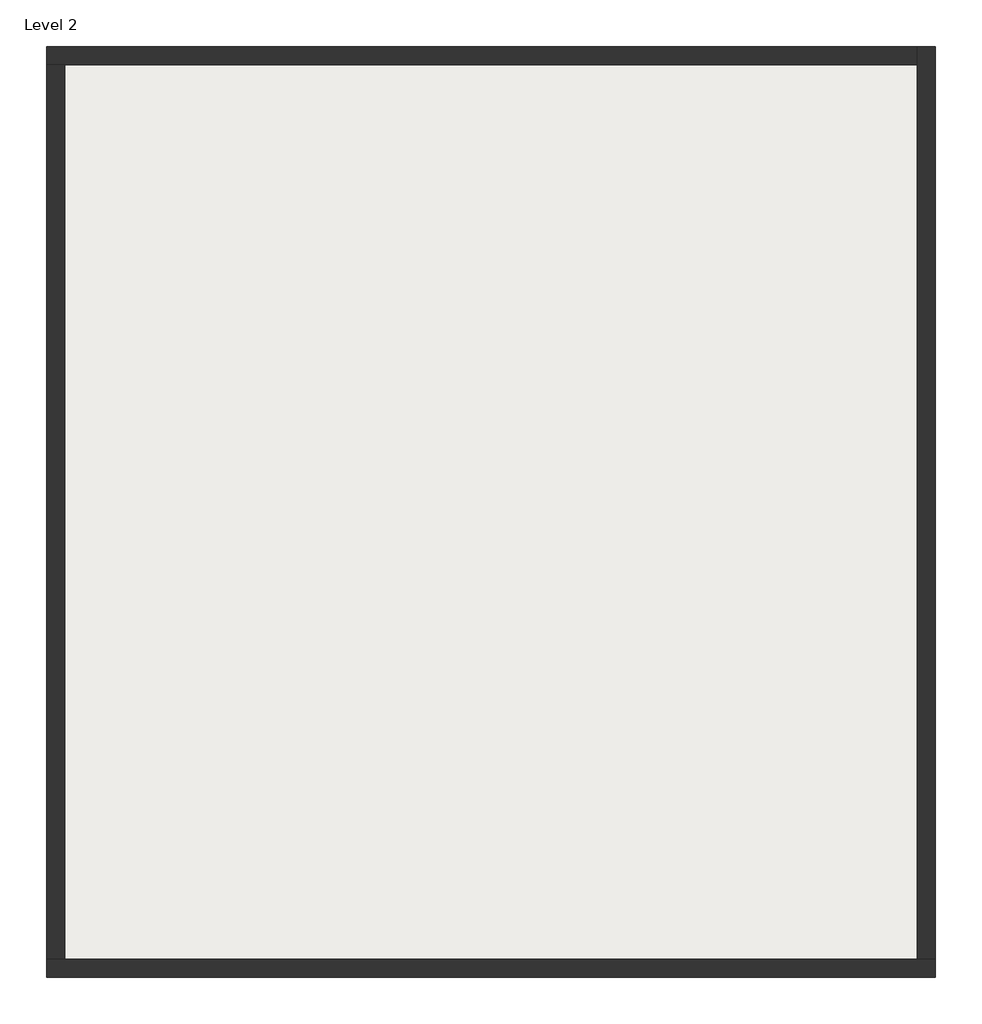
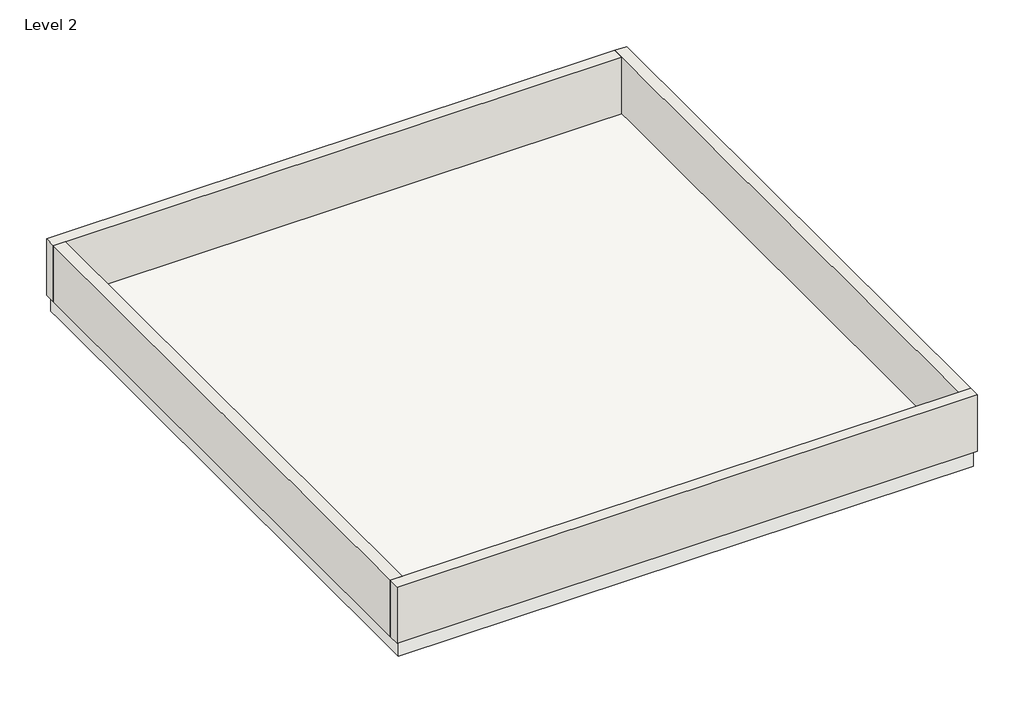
# One storey: 4 walls, 1 roof.
"""IFC4 building model written with IfcOpenShell, lengths in millimetres."""

from ifc_helpers import new_model, si_unit, origin, place, context, project, spatial, faceted_brep, element, save

model = new_model("IFC4")

# Units and contexts
model_context = context("Model", 3, world=origin())
ifc_project = project(units=[si_unit("LENGTHUNIT", "METRE", prefix="MILLI")], contexts=[model_context])

# Site, building, storey
site = spatial("IfcSite", under=ifc_project)
building = spatial("IfcBuilding", under=site)
storey = spatial("IfcBuildingStorey", under=building, Name="Level 2", Elevation=3900.0)

# Roof
placement = place(None, origin())
element("IfcRoof", 1, ObjectType="Roof 300 staright", at=placement, inside=storey, context=model_context, shape_type="Brep", body=[
    faceted_brep([(-3463.1381717, 5625.6676657, 3900.0), (6871.8618283, 5625.6676657, 3900.0), (7136.8618283, 5625.6676657, 3900.0), (7136.8618283, -5209.3323343, 3900.0), (7136.8618283, -5474.3323343, 3900.0), (-3463.1381717, -5474.3323343, 3900.0), (-3463.1381717, -5209.3323343, 3900.0), (-3463.1381717, 5360.6676657, 3900.0), (7136.8618283, 5625.6676657, 4200.0), (6871.8618283, 5625.6676657, 4200.0), (-3463.1381717, 5625.6676657, 4200.0), (-3463.1381717, 5360.6676657, 4200.0), (-3463.1381717, -5209.3323343, 4200.0), (-3463.1381717, -5474.3323343, 4200.0), (7136.8618283, -5474.3323343, 4200.0), (7136.8618283, -5209.3323343, 4200.0)], [[[0, 1, 2, 3, 4, 5, 6, 7]], [[8, 9, 10, 11, 12, 13, 14, 15]], [[10, 9, 8, 2, 1, 0]], [[8, 15, 14, 4, 3, 2]], [[14, 13, 5, 4]], [[13, 12, 11, 10, 0, 7, 6, 5]]]),
])

# Walls
element("IfcWall", 2, ObjectType="Wall Parapet - 150mm", at=placement, inside=storey, context=model_context, shape_type="Brep", body=[
    faceted_brep([(-3513.1381717, -5524.3323343, 4200.0), (7186.8618283, -5524.3323343, 4200.0), (7186.8618283, -5524.3323343, 5300.0), (-3513.1381717, -5524.3323343, 5300.0), (-3513.1381717, -5304.3323343, 4200.0), (-3513.1381717, -5304.3323343, 5300.0), (-3293.1381717, -5304.3323343, 5300.0), (6966.8618283, -5304.3323343, 5300.0), (7186.8618283, -5304.3323343, 5300.0), (7186.8618283, -5304.3323343, 4200.0), (6966.8618283, -5304.3323343, 4200.0), (-3293.1381717, -5304.3323343, 4200.0)], [[[0, 1, 2, 3]], [[4, 5, 6, 7, 8, 9, 10, 11]], [[1, 0, 4, 11, 10, 9]], [[3, 2, 8, 7, 6, 5]], [[2, 1, 9, 8]], [[0, 3, 5, 4]]]),
])
element("IfcWall", 3, ObjectType="Wall Parapet - 150mm", at=placement, inside=storey, context=model_context, shape_type="Brep", body=[
    faceted_brep([(7186.8618283, -5304.3323343, 4200.0), (7186.8618283, -5209.3323343, 4200.0), (7186.8618283, 5675.6676657, 4200.0), (7186.8618283, 5675.6676657, 5300.0), (7186.8618283, -5304.3323343, 5300.0), (6966.8618283, -5304.3323343, 4200.0), (6966.8618283, -5304.3323343, 5300.0), (6966.8618283, 5455.6676657, 5300.0), (6966.8618283, 5675.6676657, 5300.0), (6966.8618283, 5675.6676657, 4200.0), (6966.8618283, 5455.6676657, 4200.0)], [[[0, 1, 2, 3, 4]], [[5, 6, 7, 8, 9, 10]], [[2, 1, 0, 5, 10, 9]], [[4, 3, 8, 7, 6]], [[0, 4, 6, 5]], [[3, 2, 9, 8]]]),
])
element("IfcWall", 4, ObjectType="Wall Parapet - 150mm", at=placement, inside=storey, context=model_context, shape_type="Brep", body=[
    faceted_brep([(6966.8618283, 5675.6676657, 4200.0), (6871.8618283, 5675.6676657, 4200.0), (-3513.1381717, 5675.6676657, 4200.0), (-3513.1381717, 5675.6676657, 5300.0), (6966.8618283, 5675.6676657, 5300.0), (6966.8618283, 5455.6676657, 4200.0), (6966.8618283, 5455.6676657, 5300.0), (-3293.1381717, 5455.6676657, 5300.0), (-3513.1381717, 5455.6676657, 5300.0), (-3513.1381717, 5455.6676657, 4200.0), (-3293.1381717, 5455.6676657, 4200.0)], [[[0, 1, 2, 3, 4]], [[5, 6, 7, 8, 9, 10]], [[2, 1, 0, 5, 10, 9]], [[4, 3, 8, 7, 6]], [[0, 4, 6, 5]], [[3, 2, 9, 8]]]),
])
element("IfcWall", 5, ObjectType="Wall Parapet - 150mm", at=placement, inside=storey, context=model_context, shape_type="Brep", body=[
    faceted_brep([(-3513.1381717, 5455.6676657, 4200.0), (-3513.1381717, 5360.6676657, 4200.0), (-3513.1381717, -5209.3323343, 4200.0), (-3513.1381717, -5304.3323343, 4200.0), (-3513.1381717, -5304.3323343, 5300.0), (-3513.1381717, 5455.6676657, 5300.0), (-3293.1381717, 5455.6676657, 4200.0), (-3293.1381717, 5455.6676657, 5300.0), (-3293.1381717, -5304.3323343, 5300.0), (-3293.1381717, -5304.3323343, 4200.0)], [[[0, 1, 2, 3, 4, 5]], [[6, 7, 8, 9]], [[3, 2, 1, 0, 6, 9]], [[5, 4, 8, 7]], [[4, 3, 9, 8]], [[0, 5, 7, 6]]]),
])

save(model, "model.ifc")
